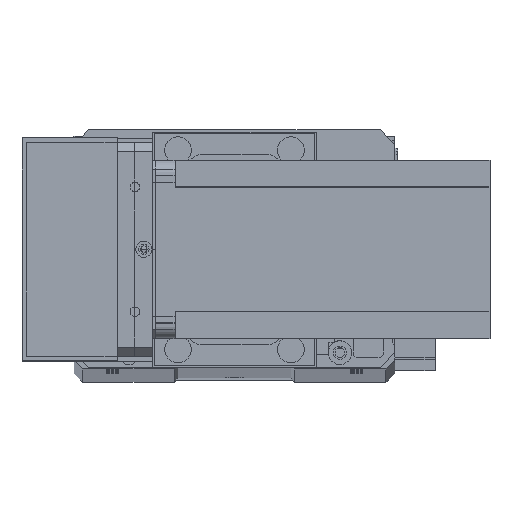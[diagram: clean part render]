
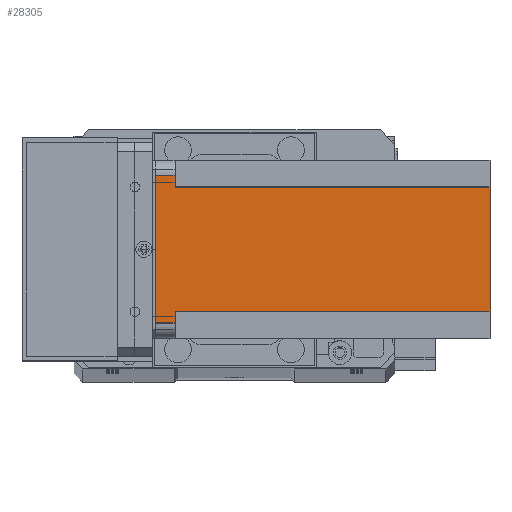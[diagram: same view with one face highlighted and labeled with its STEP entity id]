
A CAD part, top view. The second image highlights one B-rep face of the part: STEP entity #28305.
In plain terms, the highlighted planar face has unit normal (0, 0, 1) as drawn and (1, 0, 0) by its records, which use the part's own axes.
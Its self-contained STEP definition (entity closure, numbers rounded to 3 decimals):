
#22 = VERTEX_POINT ( 'NONE', #14726 ) ;
#845 = VECTOR ( 'NONE', #5067, 1000. ) ;
#1029 = EDGE_CURVE ( 'NONE', #2006, #17519, #9944, .T. ) ;
#1137 = CARTESIAN_POINT ( 'NONE',  ( 60., 0., -112.5 ) ) ;
#1422 = EDGE_CURVE ( 'NONE', #31103, #22, #13191, .T. ) ;
#1697 = CARTESIAN_POINT ( 'NONE',  ( 60., 55., -6.5 ) ) ;
#2006 = VERTEX_POINT ( 'NONE', #23522 ) ;
#2189 = AXIS2_PLACEMENT_3D ( 'NONE', #1137, #19475, #3759 ) ;
#2441 = CARTESIAN_POINT ( 'NONE',  ( 60., 55., -112.5 ) ) ;
#3224 = ORIENTED_EDGE ( 'NONE', *, *, #7694, .F. ) ;
#3759 = DIRECTION ( 'NONE',  ( 0., 1., 0. ) ) ;
#3780 = CARTESIAN_POINT ( 'NONE',  ( 60., 55., 0. ) ) ;
#3806 = CARTESIAN_POINT ( 'NONE',  ( 60., 0., 0. ) ) ;
#4056 = CARTESIAN_POINT ( 'NONE',  ( 60., 60., -6.5 ) ) ;
#4101 = VERTEX_POINT ( 'NONE', #3780 ) ;
#4354 = CARTESIAN_POINT ( 'NONE',  ( 60., 5., -6.5 ) ) ;
#4369 = VECTOR ( 'NONE', #7454, 1000. ) ;
#5067 = DIRECTION ( 'NONE',  ( 0., 0., 1. ) ) ;
#5425 = CARTESIAN_POINT ( 'NONE',  ( 60., 51., -6.5 ) ) ;
#5593 = EDGE_CURVE ( 'NONE', #20065, #4101, #24233, .T. ) ;
#6226 = VECTOR ( 'NONE', #33705, 1000. ) ;
#7062 = CARTESIAN_POINT ( 'NONE',  ( 60., 9., -6.5 ) ) ;
#7394 = ORIENTED_EDGE ( 'NONE', *, *, #1029, .T. ) ;
#7454 = DIRECTION ( 'NONE',  ( 0., 0., 1. ) ) ;
#7694 = EDGE_CURVE ( 'NONE', #12748, #26696, #25313, .T. ) ;
#8885 = VECTOR ( 'NONE', #21918, 1000. ) ;
#9338 = CARTESIAN_POINT ( 'NONE',  ( 60., 0., -112.5 ) ) ;
#9944 = LINE ( 'NONE', #17873, #30062 ) ;
#11291 = VECTOR ( 'NONE', #11963, 1000. ) ;
#11864 = DIRECTION ( 'NONE',  ( 0., -1., 0. ) ) ;
#11963 = DIRECTION ( 'NONE',  ( 0., 1., 0. ) ) ;
#12084 = LINE ( 'NONE', #9338, #11291 ) ;
#12612 = CARTESIAN_POINT ( 'NONE',  ( 60., 9., -112.5 ) ) ;
#12748 = VERTEX_POINT ( 'NONE', #13607 ) ;
#13191 = LINE ( 'NONE', #33677, #6226 ) ;
#13607 = CARTESIAN_POINT ( 'NONE',  ( 60., 9., -112.5 ) ) ;
#13642 = EDGE_CURVE ( 'NONE', #12748, #22, #12084, .T. ) ;
#14450 = LINE ( 'NONE', #4056, #28423 ) ;
#14726 = CARTESIAN_POINT ( 'NONE',  ( 60., 51., -112.5 ) ) ;
#14977 = EDGE_CURVE ( 'NONE', #20065, #31103, #14450, .T. ) ;
#15051 = LINE ( 'NONE', #19298, #8885 ) ;
#16861 = PLANE ( 'NONE',  #2189 ) ;
#17349 = ORIENTED_EDGE ( 'NONE', *, *, #29561, .F. ) ;
#17438 = DIRECTION ( 'NONE',  ( 0., 0., -1. ) ) ;
#17519 = VERTEX_POINT ( 'NONE', #4354 ) ;
#17873 = CARTESIAN_POINT ( 'NONE',  ( 60., 5., -112.5 ) ) ;
#19298 = CARTESIAN_POINT ( 'NONE',  ( 60., 0., -6.5 ) ) ;
#19475 = DIRECTION ( 'NONE',  ( 1., 0., 0. ) ) ;
#19522 = DIRECTION ( 'NONE',  ( 0., 1., 0. ) ) ;
#19573 = LINE ( 'NONE', #3806, #32697 ) ;
#19593 = ORIENTED_EDGE ( 'NONE', *, *, #5593, .T. ) ;
#20065 = VERTEX_POINT ( 'NONE', #1697 ) ;
#20723 = ORIENTED_EDGE ( 'NONE', *, *, #13642, .T. ) ;
#21398 = EDGE_LOOP ( 'NONE', ( #27438, #19593, #17349, #7394, #23910, #3224, #20723, #27031 ) ) ;
#21918 = DIRECTION ( 'NONE',  ( 0., -1., 0. ) ) ;
#23522 = CARTESIAN_POINT ( 'NONE',  ( 60., 5., 0. ) ) ;
#23910 = ORIENTED_EDGE ( 'NONE', *, *, #32262, .F. ) ;
#24233 = LINE ( 'NONE', #2441, #845 ) ;
#25313 = LINE ( 'NONE', #12612, #4369 ) ;
#26696 = VERTEX_POINT ( 'NONE', #7062 ) ;
#27031 = ORIENTED_EDGE ( 'NONE', *, *, #1422, .F. ) ;
#27438 = ORIENTED_EDGE ( 'NONE', *, *, #14977, .F. ) ;
#28305 = ADVANCED_FACE ( 'NONE', ( #33180 ), #16861, .T. ) ;
#28423 = VECTOR ( 'NONE', #11864, 1000. ) ;
#29561 = EDGE_CURVE ( 'NONE', #2006, #4101, #19573, .T. ) ;
#30062 = VECTOR ( 'NONE', #17438, 1000. ) ;
#31103 = VERTEX_POINT ( 'NONE', #5425 ) ;
#32262 = EDGE_CURVE ( 'NONE', #26696, #17519, #15051, .T. ) ;
#32697 = VECTOR ( 'NONE', #19522, 1000. ) ;
#33180 = FACE_OUTER_BOUND ( 'NONE', #21398, .T. ) ;
#33677 = CARTESIAN_POINT ( 'NONE',  ( 60., 51., -112.5 ) ) ;
#33705 = DIRECTION ( 'NONE',  ( 0., 0., -1. ) ) ;
